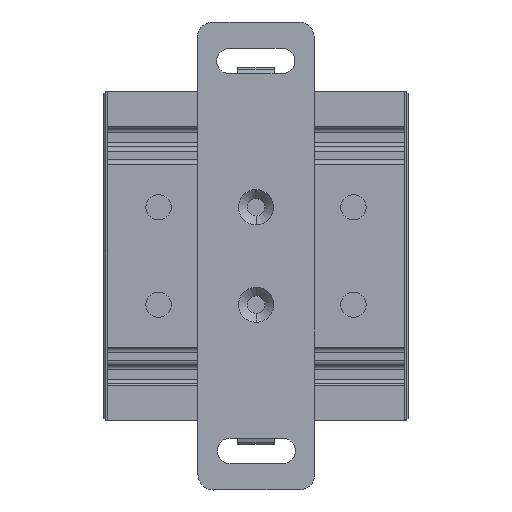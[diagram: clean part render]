
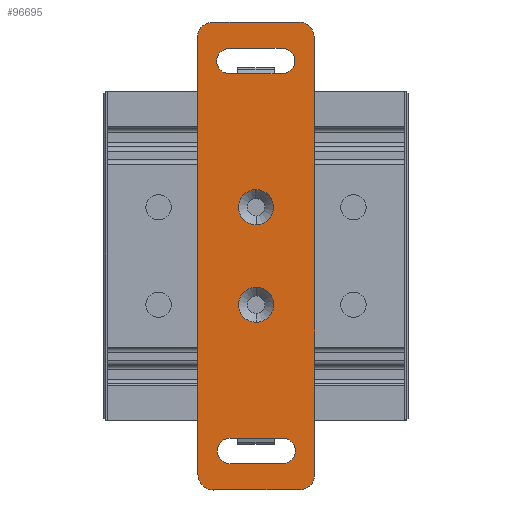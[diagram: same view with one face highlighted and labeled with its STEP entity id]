
A CAD part, top view. The second image highlights one B-rep face of the part: STEP entity #96695.
In plain terms, the highlighted planar face has unit normal (0, 0, 1) as drawn and (0, 1, 0) by its records, which use the part's own axes.
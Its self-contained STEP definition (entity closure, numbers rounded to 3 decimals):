
#95814=DIRECTION('',(0.,0.,-1.));
#95815=VECTOR('',#95814,13.5);
#95816=CARTESIAN_POINT('',(-46.75,7.,6.75));
#95817=LINE('',#95816,#95815);
#95818=CARTESIAN_POINT('',(-50.,7.,-6.75));
#95819=DIRECTION('',(0.,1.,0.));
#95820=DIRECTION('',(1.,0.,0.));
#95821=AXIS2_PLACEMENT_3D('',#95818,#95819,#95820);
#95823=DIRECTION('',(0.,0.,1.));
#95824=VECTOR('',#95823,13.5);
#95825=CARTESIAN_POINT('',(-53.25,7.,-6.75));
#95826=LINE('',#95825,#95824);
#95827=CARTESIAN_POINT('',(-50.,7.,6.75));
#95828=DIRECTION('',(0.,1.,0.));
#95829=DIRECTION('',(-1.,0.,0.));
#95830=AXIS2_PLACEMENT_3D('',#95827,#95828,#95829);
#95832=DIRECTION('',(0.,0.,-1.));
#95833=VECTOR('',#95832,13.5);
#95834=CARTESIAN_POINT('',(53.25,7.,6.75));
#95835=LINE('',#95834,#95833);
#95836=CARTESIAN_POINT('',(50.,7.,-6.75));
#95837=DIRECTION('',(0.,1.,0.));
#95838=DIRECTION('',(1.,0.,0.));
#95839=AXIS2_PLACEMENT_3D('',#95836,#95837,#95838);
#95841=DIRECTION('',(0.,0.,1.));
#95842=VECTOR('',#95841,13.5);
#95843=CARTESIAN_POINT('',(46.75,7.,-6.75));
#95844=LINE('',#95843,#95842);
#95845=CARTESIAN_POINT('',(50.,7.,6.75));
#95846=DIRECTION('',(0.,1.,0.));
#95847=DIRECTION('',(-1.,0.,0.));
#95848=AXIS2_PLACEMENT_3D('',#95845,#95846,#95847);
#95850=CARTESIAN_POINT('',(56.,7.,-11.));
#95851=DIRECTION('',(0.,1.,0.));
#95852=DIRECTION('',(1.,0.,0.));
#95853=AXIS2_PLACEMENT_3D('',#95850,#95851,#95852);
#95855=DIRECTION('',(0.,0.,-1.));
#95856=VECTOR('',#95855,22.);
#95857=CARTESIAN_POINT('',(60.,7.,11.));
#95858=LINE('',#95857,#95856);
#95859=CARTESIAN_POINT('',(56.,7.,11.));
#95860=DIRECTION('',(0.,1.,0.));
#95861=DIRECTION('',(0.,0.,1.));
#95862=AXIS2_PLACEMENT_3D('',#95859,#95860,#95861);
#95864=DIRECTION('',(1.,0.,0.));
#95865=VECTOR('',#95864,112.);
#95866=CARTESIAN_POINT('',(-56.,7.,15.));
#95867=LINE('',#95866,#95865);
#95868=CARTESIAN_POINT('',(-56.,7.,11.));
#95869=DIRECTION('',(0.,1.,0.));
#95870=DIRECTION('',(-1.,0.,0.));
#95871=AXIS2_PLACEMENT_3D('',#95868,#95869,#95870);
#95873=DIRECTION('',(0.,0.,1.));
#95874=VECTOR('',#95873,22.);
#95875=CARTESIAN_POINT('',(-60.,7.,-11.));
#95876=LINE('',#95875,#95874);
#95877=CARTESIAN_POINT('',(-56.,7.,-11.));
#95878=DIRECTION('',(0.,1.,0.));
#95879=DIRECTION('',(0.,0.,-1.));
#95880=AXIS2_PLACEMENT_3D('',#95877,#95878,#95879);
#95882=DIRECTION('',(-1.,0.,0.));
#95883=VECTOR('',#95882,112.);
#95884=CARTESIAN_POINT('',(56.,7.,-15.));
#95885=LINE('',#95884,#95883);
#95886=CARTESIAN_POINT('',(-12.5,7.,0.));
#95887=DIRECTION('',(0.,1.,0.));
#95888=DIRECTION('',(-1.,0.,0.));
#95889=AXIS2_PLACEMENT_3D('',#95886,#95887,#95888);
#95891=CARTESIAN_POINT('',(-12.5,7.,0.));
#95892=DIRECTION('',(0.,1.,0.));
#95893=DIRECTION('',(1.,0.,0.));
#95894=AXIS2_PLACEMENT_3D('',#95891,#95892,#95893);
#95896=CARTESIAN_POINT('',(12.5,7.,0.));
#95897=DIRECTION('',(0.,-1.,0.));
#95898=DIRECTION('',(1.,0.,0.));
#95899=AXIS2_PLACEMENT_3D('',#95896,#95897,#95898);
#95901=CARTESIAN_POINT('',(12.5,7.,0.));
#95902=DIRECTION('',(0.,-1.,0.));
#95903=DIRECTION('',(-1.,0.,0.));
#95904=AXIS2_PLACEMENT_3D('',#95901,#95902,#95903);
#96212=CARTESIAN_POINT('',(-53.25,7.,-6.75));
#96213=CARTESIAN_POINT('',(-53.25,7.,6.75));
#96214=VERTEX_POINT('',#96212);
#96215=VERTEX_POINT('',#96213);
#96216=CARTESIAN_POINT('',(-46.75,7.,6.75));
#96217=CARTESIAN_POINT('',(-46.75,7.,-6.75));
#96218=VERTEX_POINT('',#96216);
#96219=VERTEX_POINT('',#96217);
#96220=CARTESIAN_POINT('',(46.75,7.,-6.75));
#96221=CARTESIAN_POINT('',(46.75,7.,6.75));
#96222=VERTEX_POINT('',#96220);
#96223=VERTEX_POINT('',#96221);
#96224=CARTESIAN_POINT('',(53.25,7.,6.75));
#96225=CARTESIAN_POINT('',(53.25,7.,-6.75));
#96226=VERTEX_POINT('',#96224);
#96227=VERTEX_POINT('',#96225);
#96228=CARTESIAN_POINT('',(60.,7.,-11.));
#96229=VERTEX_POINT('',#96228);
#96230=CARTESIAN_POINT('',(56.,7.,-15.));
#96231=VERTEX_POINT('',#96230);
#96232=CARTESIAN_POINT('',(56.,7.,15.));
#96233=VERTEX_POINT('',#96232);
#96234=CARTESIAN_POINT('',(60.,7.,11.));
#96235=VERTEX_POINT('',#96234);
#96236=CARTESIAN_POINT('',(-56.,7.,-15.));
#96237=VERTEX_POINT('',#96236);
#96238=CARTESIAN_POINT('',(-60.,7.,-11.));
#96239=VERTEX_POINT('',#96238);
#96240=CARTESIAN_POINT('',(-60.,7.,11.));
#96241=VERTEX_POINT('',#96240);
#96242=CARTESIAN_POINT('',(-56.,7.,15.));
#96243=VERTEX_POINT('',#96242);
#96248=CARTESIAN_POINT('',(-17.,7.,0.));
#96249=CARTESIAN_POINT('',(-8.,7.,0.));
#96250=VERTEX_POINT('',#96248);
#96251=VERTEX_POINT('',#96249);
#96252=CARTESIAN_POINT('',(17.,7.,0.));
#96253=CARTESIAN_POINT('',(8.,7.,0.));
#96254=VERTEX_POINT('',#96252);
#96255=VERTEX_POINT('',#96253);
#96644=CARTESIAN_POINT('',(0.,7.,0.));
#96645=DIRECTION('',(0.,1.,0.));
#96646=DIRECTION('',(1.,0.,0.));
#96647=AXIS2_PLACEMENT_3D('',#96644,#96645,#96646);
#96648=PLANE('',#96647);
#96650=ORIENTED_EDGE('',*,*,#96649,.F.);
#96652=ORIENTED_EDGE('',*,*,#96651,.F.);
#96654=ORIENTED_EDGE('',*,*,#96653,.F.);
#96656=ORIENTED_EDGE('',*,*,#96655,.F.);
#96658=ORIENTED_EDGE('',*,*,#96657,.F.);
#96660=ORIENTED_EDGE('',*,*,#96659,.F.);
#96662=ORIENTED_EDGE('',*,*,#96661,.F.);
#96664=ORIENTED_EDGE('',*,*,#96663,.F.);
#96665=EDGE_LOOP('',(#96650,#96652,#96654,#96656,#96658,#96660,#96662,#96664));
#96666=FACE_OUTER_BOUND('',#96665,.F.);
#96668=ORIENTED_EDGE('',*,*,#96667,.T.);
#96670=ORIENTED_EDGE('',*,*,#96669,.T.);
#96672=ORIENTED_EDGE('',*,*,#96671,.T.);
#96674=ORIENTED_EDGE('',*,*,#96673,.T.);
#96675=EDGE_LOOP('',(#96668,#96670,#96672,#96674));
#96676=FACE_BOUND('',#96675,.F.);
#96677=ORIENTED_EDGE('',*,*,#96625,.T.);
#96678=ORIENTED_EDGE('',*,*,#96638,.T.);
#96679=ORIENTED_EDGE('',*,*,#96596,.T.);
#96680=ORIENTED_EDGE('',*,*,#96611,.T.);
#96681=EDGE_LOOP('',(#96677,#96678,#96679,#96680));
#96682=FACE_BOUND('',#96681,.F.);
#96684=ORIENTED_EDGE('',*,*,#96683,.T.);
#96686=ORIENTED_EDGE('',*,*,#96685,.T.);
#96687=EDGE_LOOP('',(#96684,#96686));
#96688=FACE_BOUND('',#96687,.F.);
#96690=ORIENTED_EDGE('',*,*,#96689,.F.);
#96692=ORIENTED_EDGE('',*,*,#96691,.F.);
#96693=EDGE_LOOP('',(#96690,#96692));
#96694=FACE_BOUND('',#96693,.F.);
#96695=ADVANCED_FACE('',(#96666,#96676,#96682,#96688,#96694),#96648,.T.);
#95822=CIRCLE('',#95821,3.25);
#95831=CIRCLE('',#95830,3.25);
#95840=CIRCLE('',#95839,3.25);
#95849=CIRCLE('',#95848,3.25);
#95854=CIRCLE('',#95853,4.);
#95863=CIRCLE('',#95862,4.);
#95872=CIRCLE('',#95871,4.);
#95881=CIRCLE('',#95880,4.);
#95890=CIRCLE('',#95889,4.5);
#95895=CIRCLE('',#95894,4.5);
#95900=CIRCLE('',#95899,4.5);
#95905=CIRCLE('',#95904,4.5);
#96596=EDGE_CURVE('',#96214,#96215,#95826,.T.);
#96611=EDGE_CURVE('',#96215,#96218,#95831,.T.);
#96625=EDGE_CURVE('',#96218,#96219,#95817,.T.);
#96638=EDGE_CURVE('',#96219,#96214,#95822,.T.);
#96649=EDGE_CURVE('',#96229,#96231,#95854,.T.);
#96651=EDGE_CURVE('',#96235,#96229,#95858,.T.);
#96653=EDGE_CURVE('',#96233,#96235,#95863,.T.);
#96655=EDGE_CURVE('',#96243,#96233,#95867,.T.);
#96657=EDGE_CURVE('',#96241,#96243,#95872,.T.);
#96659=EDGE_CURVE('',#96239,#96241,#95876,.T.);
#96661=EDGE_CURVE('',#96237,#96239,#95881,.T.);
#96663=EDGE_CURVE('',#96231,#96237,#95885,.T.);
#96667=EDGE_CURVE('',#96226,#96227,#95835,.T.);
#96669=EDGE_CURVE('',#96227,#96222,#95840,.T.);
#96671=EDGE_CURVE('',#96222,#96223,#95844,.T.);
#96673=EDGE_CURVE('',#96223,#96226,#95849,.T.);
#96683=EDGE_CURVE('',#96250,#96251,#95890,.T.);
#96685=EDGE_CURVE('',#96251,#96250,#95895,.T.);
#96689=EDGE_CURVE('',#96254,#96255,#95900,.T.);
#96691=EDGE_CURVE('',#96255,#96254,#95905,.T.);
